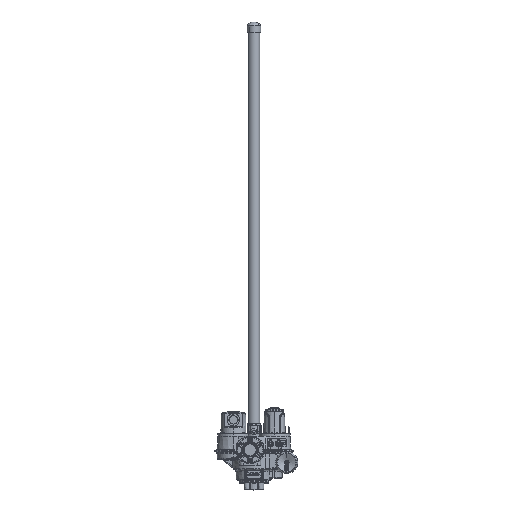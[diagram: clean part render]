
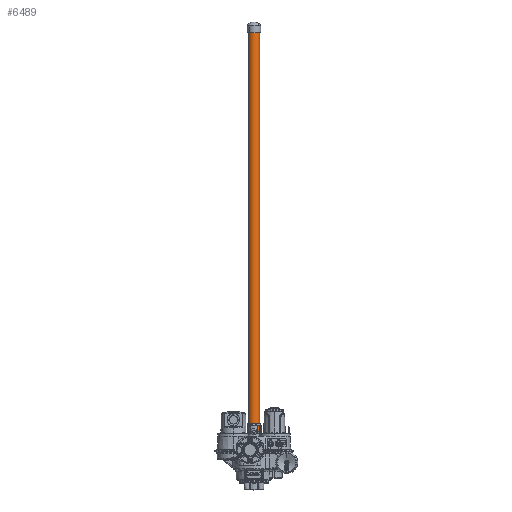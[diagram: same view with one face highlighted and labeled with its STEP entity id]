
A CAD part, top view. The second image highlights one B-rep face of the part: STEP entity #6489.
In plain terms, the highlighted cylindrical face has radius 44.45 mm (diameter 88.9 mm), a partial arc.
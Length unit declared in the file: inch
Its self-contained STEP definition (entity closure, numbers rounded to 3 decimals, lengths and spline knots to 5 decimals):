
#1033 = EDGE_CURVE ( 'NONE', #146296, #70954, #32705, .T. ) ;
#6489 = ADVANCED_FACE ( 'NONE', ( #113746 ), #104869, .T. ) ;
#8980 = CARTESIAN_POINT ( 'NONE',  ( 1.52725, 126.5, -0.85441 ) ) ;
#14849 = DIRECTION ( 'NONE',  ( 0., -1., 0. ) ) ;
#18284 = LINE ( 'NONE', #62990, #113421 ) ;
#20798 = VERTEX_POINT ( 'NONE', #33653 ) ;
#23573 = EDGE_LOOP ( 'NONE', ( #49136, #63424, #49731, #77838 ) ) ;
#31387 = VECTOR ( 'NONE', #148099, 39.37008 ) ;
#32705 = CIRCLE ( 'NONE', #35916, 1.75 ) ;
#33653 = CARTESIAN_POINT ( 'NONE',  ( -1.52725, 6.5, 0.85441 ) ) ;
#35916 = AXIS2_PLACEMENT_3D ( 'NONE', #129728, #14849, #116691 ) ;
#36927 = DIRECTION ( 'NONE',  ( -0.873, 0., 0.488 ) ) ;
#49136 = ORIENTED_EDGE ( 'NONE', *, *, #114129, .F. ) ;
#49731 = ORIENTED_EDGE ( 'NONE', *, *, #1033, .T. ) ;
#55121 = CARTESIAN_POINT ( 'NONE',  ( -1.52725, 126.5, 0.85441 ) ) ;
#56132 = VERTEX_POINT ( 'NONE', #57714 ) ;
#57714 = CARTESIAN_POINT ( 'NONE',  ( 1.52725, 6.5, -0.85441 ) ) ;
#60312 = AXIS2_PLACEMENT_3D ( 'NONE', #77086, #123270, #65559 ) ;
#62990 = CARTESIAN_POINT ( 'NONE',  ( -1.52725, 6.5, 0.85441 ) ) ;
#63424 = ORIENTED_EDGE ( 'NONE', *, *, #112990, .T. ) ;
#65559 = DIRECTION ( 'NONE',  ( 0.873, 0., -0.488 ) ) ;
#68142 = AXIS2_PLACEMENT_3D ( 'NONE', #115238, #93725, #36927 ) ;
#70954 = VERTEX_POINT ( 'NONE', #55121 ) ;
#77086 = CARTESIAN_POINT ( 'NONE',  ( 0., 6.5, 0. ) ) ;
#77838 = ORIENTED_EDGE ( 'NONE', *, *, #127873, .F. ) ;
#93725 = DIRECTION ( 'NONE',  ( 0., 1., 0. ) ) ;
#104869 = CYLINDRICAL_SURFACE ( 'NONE', #68142, 1.75 ) ;
#112990 = EDGE_CURVE ( 'NONE', #56132, #146296, #122974, .T. ) ;
#113421 = VECTOR ( 'NONE', #120193, 39.37008 ) ;
#113746 = FACE_OUTER_BOUND ( 'NONE', #23573, .T. ) ;
#114129 = EDGE_CURVE ( 'NONE', #56132, #20798, #131548, .T. ) ;
#115238 = CARTESIAN_POINT ( 'NONE',  ( 0., 6.5, 0. ) ) ;
#116691 = DIRECTION ( 'NONE',  ( 0.873, 0., -0.488 ) ) ;
#120193 = DIRECTION ( 'NONE',  ( 0., 1., 0. ) ) ;
#122974 = LINE ( 'NONE', #123882, #31387 ) ;
#123270 = DIRECTION ( 'NONE',  ( 0., -1., 0. ) ) ;
#123882 = CARTESIAN_POINT ( 'NONE',  ( 1.52725, 6.5, -0.85441 ) ) ;
#127873 = EDGE_CURVE ( 'NONE', #20798, #70954, #18284, .T. ) ;
#129728 = CARTESIAN_POINT ( 'NONE',  ( 0., 126.5, 0. ) ) ;
#131548 = CIRCLE ( 'NONE', #60312, 1.75 ) ;
#146296 = VERTEX_POINT ( 'NONE', #8980 ) ;
#148099 = DIRECTION ( 'NONE',  ( 0., 1., 0. ) ) ;
